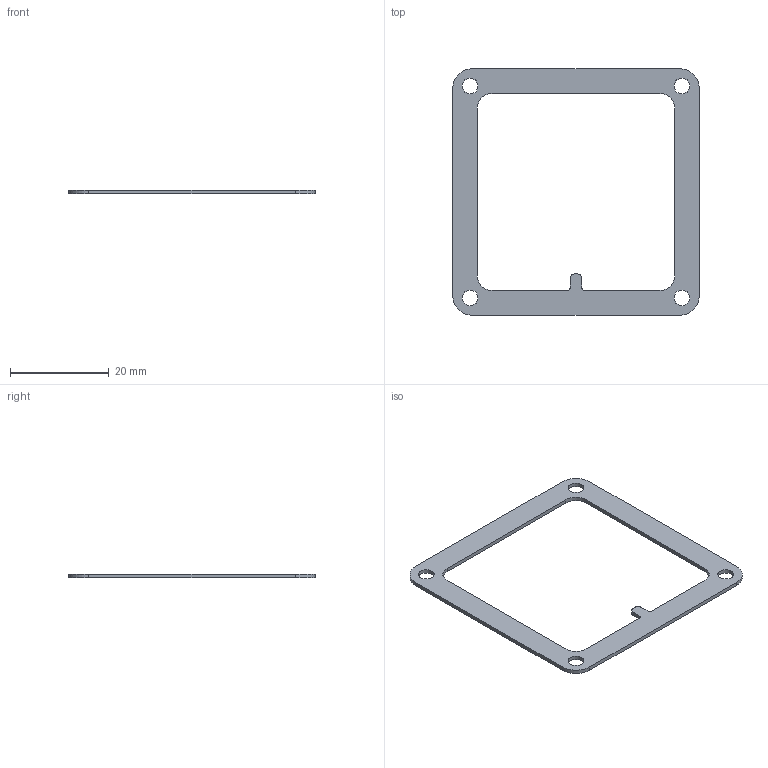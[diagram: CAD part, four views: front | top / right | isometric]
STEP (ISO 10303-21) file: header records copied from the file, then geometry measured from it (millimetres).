
FILE_DESCRIPTION(/* description */ ('Gasket'),/* implementation_level */ '2;1');
FILE_NAME(/* name */ 'ITPTv2.02.00.06.stp',/* time_stamp */ '2025-02-12T11:24:28+01:00',/* author */ ('Rüdiger Widera'),/* organization */ (''),/* preprocessor_version */ 'ST-DEVELOPER v19.2',/* originating_system */ 'Autodesk Inventor 2024',/* authorisation */ '');
FILE_SCHEMA (('AUTOMOTIVE_DESIGN { 1 0 10303 214 3 1 1 }'));
Length unit declared in the file: millimetre
Products named in the file (1): ITPTv2.02.00.06
Bounding box: 50 x 50 x 0.8 mm (x, y, z)
Volume: 695.7 mm3; surface area: 2054.3 mm2
Topology: 1 solids, 1 shells, 30 faces, 84 edges, 56 vertices
Faces by surface type: cylinder 16, plane 14
Full cylindrical faces by diameter (mm): 3.2 x4
Entity records: 1043 total; most frequent: DIRECTION 178, CARTESIAN_POINT 171, ORIENTED_EDGE 168, EDGE_CURVE 84, AXIS2_PLACEMENT_3D 63, VERTEX_POINT 56, LINE 52, VECTOR 52
